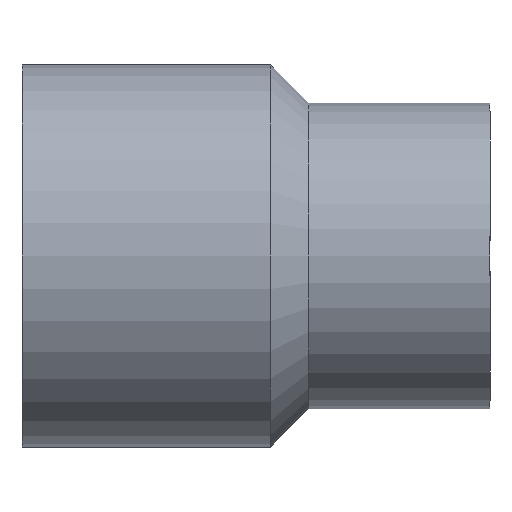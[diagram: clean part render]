
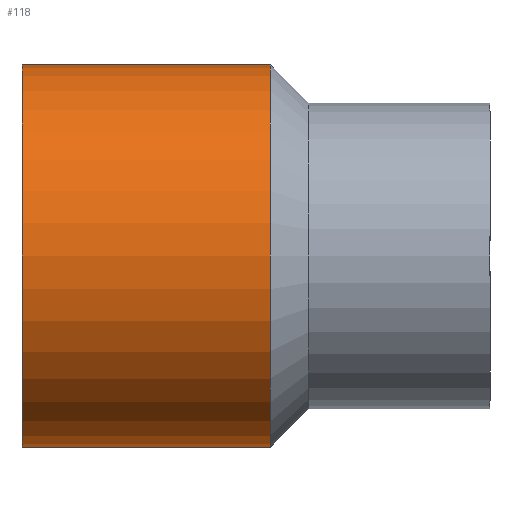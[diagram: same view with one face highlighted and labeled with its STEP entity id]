
A CAD part, front view. The second image highlights one B-rep face of the part: STEP entity #118.
In plain terms, the highlighted cylindrical face has radius 20 mm (diameter 40 mm), a full revolution.
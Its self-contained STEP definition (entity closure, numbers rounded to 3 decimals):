
#18=CYLINDRICAL_SURFACE('',#134,20.);
#25=FACE_BOUND('',#49,.T.);
#35=FACE_OUTER_BOUND('',#48,.T.);
#48=EDGE_LOOP('',(#98));
#49=EDGE_LOOP('',(#99));
#65=CIRCLE('',#133,20.);
#66=CIRCLE('',#135,20.);
#75=VERTEX_POINT('',#199);
#76=VERTEX_POINT('',#202);
#85=EDGE_CURVE('',#75,#75,#65,.T.);
#86=EDGE_CURVE('',#76,#76,#66,.T.);
#98=ORIENTED_EDGE('',*,*,#85,.T.);
#99=ORIENTED_EDGE('',*,*,#86,.F.);
#118=ADVANCED_FACE('',(#35,#25),#18,.T.);
#133=AXIS2_PLACEMENT_3D('',#200,#161,#162);
#134=AXIS2_PLACEMENT_3D('',#201,#163,#164);
#135=AXIS2_PLACEMENT_3D('',#203,#165,#166);
#161=DIRECTION('center_axis',(-1.,0.,0.));
#162=DIRECTION('ref_axis',(0.,0.,1.));
#163=DIRECTION('center_axis',(-1.,0.,0.));
#164=DIRECTION('ref_axis',(0.,-1.,0.));
#165=DIRECTION('center_axis',(-1.,0.,0.));
#166=DIRECTION('ref_axis',(0.,0.,1.));
#199=CARTESIAN_POINT('',(1.5,-20.,0.));
#200=CARTESIAN_POINT('Origin',(1.5,0.,0.));
#201=CARTESIAN_POINT('Origin',(-11.5,0.,0.));
#202=CARTESIAN_POINT('',(-24.5,-20.,0.));
#203=CARTESIAN_POINT('Origin',(-24.5,0.,0.));
